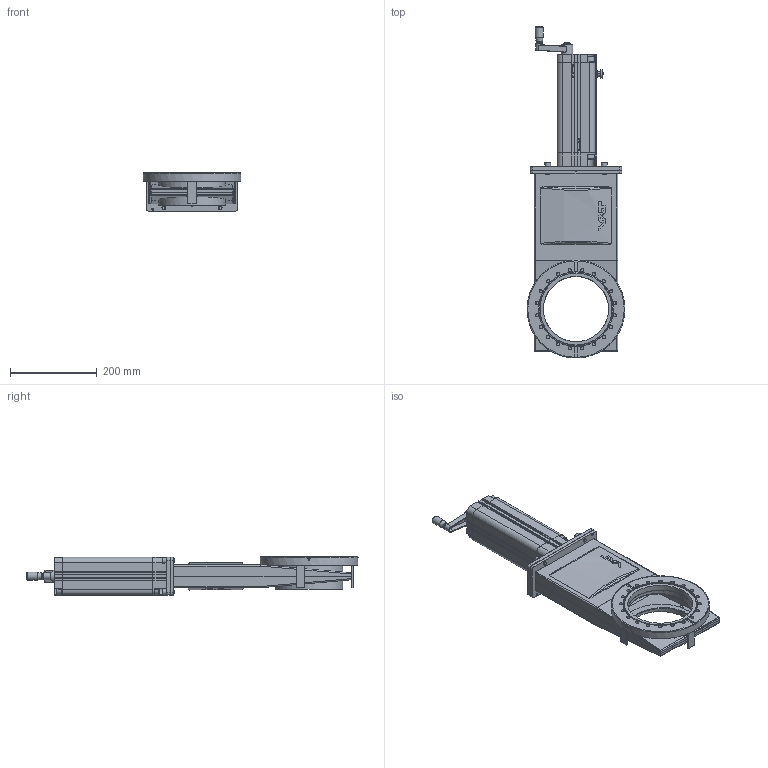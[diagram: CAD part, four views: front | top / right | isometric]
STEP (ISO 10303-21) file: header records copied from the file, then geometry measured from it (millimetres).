
FILE_DESCRIPTION(/* description */ (''),/* implementation_level */ '2;1');
FILE_NAME(/* name */ '1006163020_203.stp',/* time_stamp */ '2013-09-10T12:09:03+02:00',/* author */ (''),/* organization */ (''),/* preprocessor_version */ 'ST-DEVELOPER v11',/* originating_system */ 'SIEMENS PLM Software NX 7.5',/* authorisation */ '');
FILE_SCHEMA (('AP203_CONFIGURATION_CONTROLLED_3D_DESIGN_OF_MECHANICAL_PARTS_AND_ASSEMBLIES_MIM_LF'));
Length unit declared in the file: millimetre
Products named in the file (33): 301626.1; 261361.5; 339067.1; N-6092-118.1; 261336.1; 419014; n-6131-414; n-6195-408; N-6092-038.1; 260826.1; N-6066-009.1; 261365.3; 261368.5; 261364.3; 335391.1; 261363.3; 332689.2; 301646.1; 261369.1; 228777; 309094.4; N-6134-409.1; 309095.3; 307161.2; 255558.4; 255788.2; 255792.2; 255802.2; 255217.1; 261337.1; 261362.6; 348483.1_NX-ARRAGMNTZUSAMMENST1; 348489.1
Assembly tree (49 placements, depth 4):
  348489.1
    255217.1  x2
    255802.2  x2
    255792.2  x3
    255788.2  x2
    348483.1_NX-ARRAGMNTZUSAMMENST1
      261369.1  x4
      301646.1
      332689.2
      261363.3
      335391.1
      261364.3
      261368.5
      261362.6
        339067.1
        261361.5
        301626.1
      261365.3
      N-6066-009.1  x2
      260826.1
      N-6092-038.1
      n-6195-408
      n-6131-414  x2
      419014
    261337.1
      261336.1
      N-6092-118.1  x2
    255558.4
    307161.2
    309095.3
    N-6134-409.1  x4
    309094.4
    228777  x4
Bounding box: 224.8 x 763.55 x 88.5 mm (x, y, z)
Volume: 2143054.4 mm3; surface area: 867025.1 mm2
Topology: 55 solids, 55 shells, 1722 faces, 4378 edges, 2865 vertices
Faces by surface type: plane 812, cylinder 535, bspline 190, cone 105, revolution 66, torus 7, sphere 7
Full cylindrical faces by diameter (mm): 2 x1, 2.2 x1, 3.17 x1, 4 x2, 4.976 x2, 4.985 x1, 5 x2, 5.102 x2, 5.22 x4, 5.3 x1, 6 x1, 6.66 x4, 6.7 x4, 6.8 x7, 6.9 x20, 7.938 x20, 7.976 x1, 8 x13, 8.4 x7, 8.5 x10, 9.976 x1, 9.989 x1, 10 x6, 10.008 x1, 11 x2, 13 x4, 13.586 x2, 13.626 x2, 15 x7, 15.2 x1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
Entity records: 55900 total; most frequent: CARTESIAN_POINT 20171, ORIENTED_EDGE 6282, DIRECTION 6132, EDGE_CURVE 3141, AXIS2_PLACEMENT_3D 2211, VERTEX_POINT 2199, EDGE_LOOP 1733, LINE 1682
